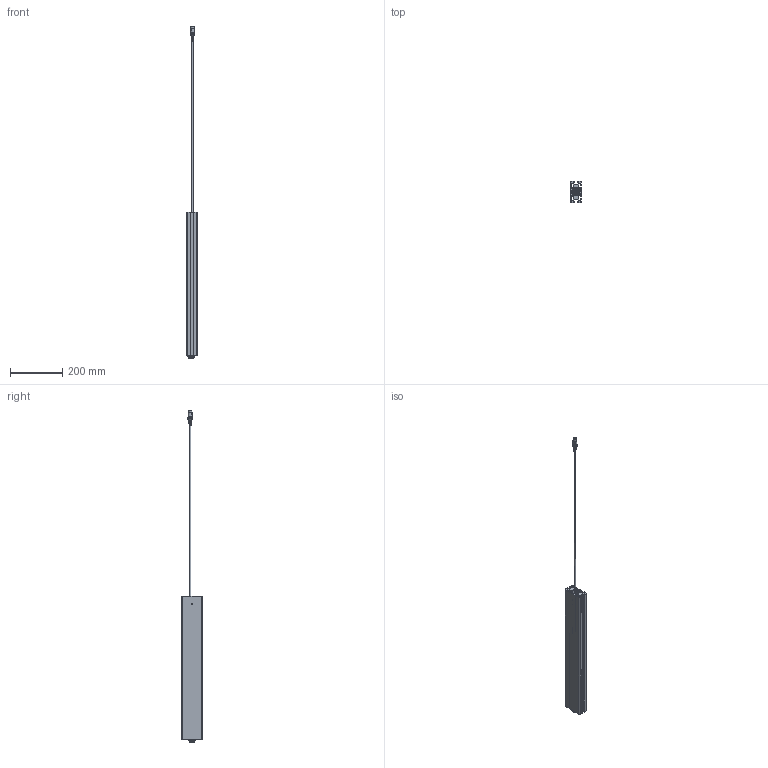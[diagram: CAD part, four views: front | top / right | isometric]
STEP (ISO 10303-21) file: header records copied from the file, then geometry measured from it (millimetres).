
FILE_DESCRIPTION (( 'STEP AP214' ), '1' );
FILE_NAME ('004 10269_ZB Actuator SMS-I-40x80_Hub200_eingefahren.STEP', '2018-09-03T12:54:42', ( '' ), ( '' ), 'SwSTEP 2.0', 'SolidWorks 2017', '' );
FILE_SCHEMA (( 'AUTOMOTIVE_DESIGN' ));
Length unit declared in the file: millimetre
Products named in the file (1): 004 10269_ZB Actuator SMS-I-40x80_Hub200_eingefahren
Bounding box: 40 x 80 x 1275.6 mm (x, y, z)
Surface area: 413514.2 mm2 (no closed solid volume)
Topology: 0 solids, 5 shells, 2847 faces, 7689 edges, 4710 vertices
Faces by surface type: bspline 910, plane 840, cylinder 679, cone 288, torus 85, sphere 45
Entity records: 161147 total; most frequent: CARTESIAN_POINT 85619, ORIENTED_EDGE 14906, DIRECTION 10443, EDGE_CURVE 7456, VERTEX_POINT 4704, AXIS2_PLACEMENT_3D 3996, EDGE_LOOP 2957, ADVANCED_FACE 2847
